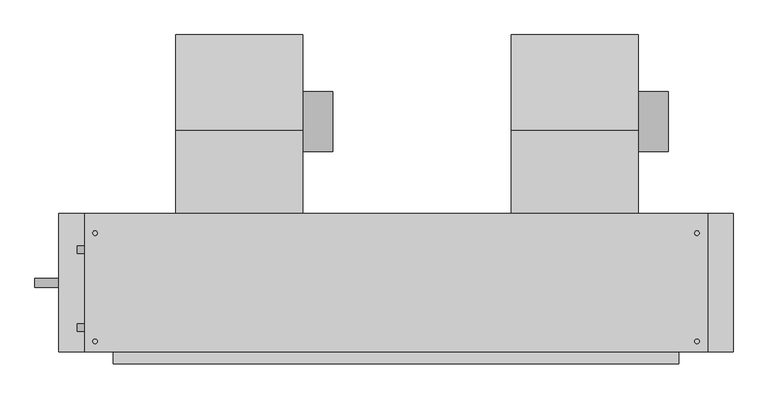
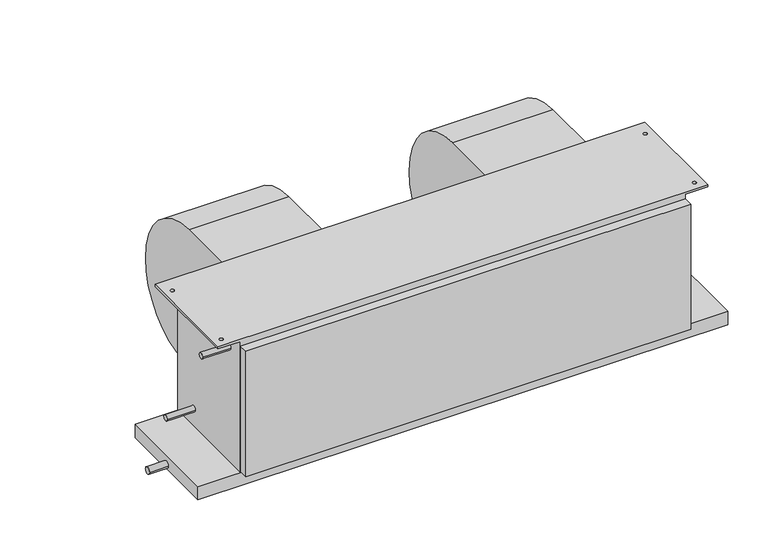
"""IFC4 building model written with IfcOpenShell, lengths in millimetres: proxy geometry, Concealed_High_Capacity_Horizontal_Fan_Coil_Unit_-_42DAA_-_CARRIER_-_2-Pipe_Cool-EHeat_LH_2022 : Size 20 - 277v/60Hz/1Ph - 6 Row 14.0kW."""

from ifc_helpers import new_model, si_unit, point, frame, frame_2d, origin, place, context, project, spatial, polyline, circle_curve, trimmed, segment, composite_curve, outline, extrude, source, transform, mapped, element, save
from ifc_brep_helpers import plane_surface, cylinder_surface, revolved_surface, advanced_brep


def mechanical_equipment_786d0d70(model_context):
    return source(origin(), model_context, "Body", "SolidModel", [
        extrude(outline(composite_curve([segment(trimmed(circle_curve(frame_2d((102.0007598, -206.8897468)), 63.5), [point((165.5007598, -206.8897468))], [point((38.5007598, -206.8897468))], False, "CARTESIAN"), True, "CONTINUOUS"), segment(trimmed(circle_curve(frame_2d((102.0007598, -206.8897468)), 63.5), [point((38.5007598, -206.8897468))], [point((165.5007598, -206.8897468))], False, "CARTESIAN"), True, "CONTINUOUS")], self_intersect=False)), frame((-44.45, 0.0, 0.0), z_axis=(1.0, 0.0, 0.0), x_axis=(0.0, 1.0, 0.0)), (0.0, 0.0, 1.0), 63.5),
        advanced_brep(
        [(-312.674, 285.5155957, -222.029602), (-312.674, 104.6226, -403.64664), (-312.674, -50.9016, -277.10638), (-312.674, -92.075, -277.10638), (-312.674, -92.075, -19.05), (-312.674, 83.0080093, -19.05), (-44.45, 285.5155957, -222.029602), (-44.45, 83.0080093, -19.05), (-44.45, -92.075, -19.05), (-44.45, -92.075, -277.10638), (-44.45, -50.9016, -277.10638), (-44.45, 104.622599, -403.6457839)],
        [
            (0, 1, circle_curve(frame((-312.674, 104.44226, -222.57258), z_axis=(-1.0, 0.0, 0.0), x_axis=(0.0, -1.0, 0.0)), 181.0741498)),
            (1, 2, circle_curve(frame((-312.674, 104.44226, -245.02364), z_axis=(-1.0, 0.0, 0.0), x_axis=(0.0, -1.0, 0.0)), 158.6222464)),
            (2, 3),
            (3, 4),
            (4, 5),
            (5, 0, circle_curve(frame((-312.674, 81.9912, -222.57258), z_axis=(-1.0, 0.0, 0.0), x_axis=(0.0, -1.0, 0.0)), 203.52512)),
            (6, 7, circle_curve(frame((-44.45, 81.9912, -222.57258), z_axis=(1.0, 0.0, 0.0), x_axis=(0.0, -1.0, 0.0)), 203.52512)),
            (7, 8),
            (8, 9),
            (9, 10),
            (10, 11, circle_curve(frame((-44.45, 104.44226, -245.02364), z_axis=(1.0, 0.0, 0.0), x_axis=(0.0, -1.0, 0.0)), 158.6222464)),
            (11, 6, circle_curve(frame((-44.45, 104.44226, -222.57258), z_axis=(1.0, 0.0, 0.0), x_axis=(0.0, -1.0, 0.0)), 181.0741498)),
            (0, 6),
            (11, 1),
            (10, 2),
            (9, 3),
            (8, 4),
            (7, 5),
        ],
        [
            plane_surface(frame((-312.674, -76.6318898, -222.57258), z_axis=(-1.0, 0.0, 0.0), x_axis=(0.0, 0.0, 1.0))),
            plane_surface(frame((-44.45, -76.6318898, -222.57258), z_axis=(1.0, 0.0, 0.0), x_axis=(0.0, 0.0, -1.0))),
            cylinder_surface(frame((-44.45, 104.44226, -222.57258), z_axis=(-1.0, 0.0, 0.0), x_axis=(0.0, -1.0, 0.0)), 181.0741498),
            cylinder_surface(frame((-44.45, 104.44226, -245.02364), z_axis=(-1.0, 0.0, 0.0), x_axis=(0.0, -1.0, 0.0)), 158.6222464),
            plane_surface(frame((-312.674, -50.9016, -277.10638), z_axis=(0.0, 0.0, -1.0), x_axis=(1.0, 0.0, 0.0))),
            plane_surface(frame((-312.674, -92.075, -277.10638), z_axis=(0.0, -1.0, 0.0), x_axis=(1.0, 0.0, 0.0))),
            plane_surface(frame((-312.674, -92.075, -19.05), z_axis=(0.0, 0.0, 1.0), x_axis=(1.0, 0.0, 0.0))),
            cylinder_surface(frame((-44.45, 81.9912, -222.57258), z_axis=(-1.0, 0.0, 0.0), x_axis=(0.0, -1.0, 0.0)), 203.52512),
        ],
        [
            (0, [[1, 2, 3, 4, 5, 6]]),
            (1, [[7, 8, 9, 10, 11, 12]]),
            (2, [[-1, 13, -12, 14]]),
            (3, [[-2, -14, -11, 15]]),
            (4, [[-3, -15, -10, 16]]),
            (5, [[-4, -16, -9, 17]]),
            (6, [[-5, -17, -8, 18]]),
            (7, [[-6, -18, -7, -13]]),
        ],
    ),
        extrude(outline(composite_curve([segment(trimmed(circle_curve(frame_2d((102.0007598, -206.8897468)), 63.5), [point((165.5007598, -206.8897468))], [point((38.5007598, -206.8897468))], False, "CARTESIAN"), True, "CONTINUOUS"), segment(trimmed(circle_curve(frame_2d((102.0007598, -206.8897468)), 63.5), [point((38.5007598, -206.8897468))], [point((165.5007598, -206.8897468))], False, "CARTESIAN"), True, "CONTINUOUS")], self_intersect=False)), frame((663.575, 0.0, 0.0), z_axis=(1.0, 0.0, 0.0), x_axis=(0.0, 1.0, 0.0)), (0.0, 0.0, 1.0), 63.5),
        advanced_brep(
        [(395.351, 285.5155957, -222.029602), (395.351, 104.6226, -403.64664), (395.351, -50.9016, -277.10638), (395.351, -92.075, -277.10638), (395.351, -92.075, -19.05), (395.351, 83.0080093, -19.05), (663.575, 285.5155957, -222.029602), (663.575, 83.0080093, -19.05), (663.575, -92.075, -19.05), (663.575, -92.075, -277.10638), (663.575, -50.9016, -277.10638), (663.575, 104.622599, -403.6457839)],
        [
            (0, 1, circle_curve(frame((395.351, 104.44226, -222.57258), z_axis=(-1.0, 0.0, 0.0), x_axis=(0.0, -1.0, 0.0)), 181.0741498)),
            (1, 2, circle_curve(frame((395.351, 104.44226, -245.02364), z_axis=(-1.0, 0.0, 0.0), x_axis=(0.0, -1.0, 0.0)), 158.6222464)),
            (2, 3),
            (3, 4),
            (4, 5),
            (5, 0, circle_curve(frame((395.351, 81.9912, -222.57258), z_axis=(-1.0, 0.0, 0.0), x_axis=(0.0, -1.0, 0.0)), 203.52512)),
            (6, 7, circle_curve(frame((663.575, 81.9912, -222.57258), z_axis=(1.0, 0.0, 0.0), x_axis=(0.0, -1.0, 0.0)), 203.52512)),
            (7, 8),
            (8, 9),
            (9, 10),
            (10, 11, circle_curve(frame((663.575, 104.44226, -245.02364), z_axis=(1.0, 0.0, 0.0), x_axis=(0.0, -1.0, 0.0)), 158.6222464)),
            (11, 6, circle_curve(frame((663.575, 104.44226, -222.57258), z_axis=(1.0, 0.0, 0.0), x_axis=(0.0, -1.0, 0.0)), 181.0741498)),
            (0, 6),
            (11, 1),
            (10, 2),
            (9, 3),
            (8, 4),
            (7, 5),
        ],
        [
            plane_surface(frame((395.351, -76.6318898, -222.57258), z_axis=(-1.0, 0.0, 0.0), x_axis=(0.0, 0.0, 1.0))),
            plane_surface(frame((663.575, -76.6318898, -222.57258), z_axis=(1.0, 0.0, 0.0), x_axis=(0.0, 0.0, -1.0))),
            cylinder_surface(frame((663.575, 104.44226, -222.57258), z_axis=(-1.0, 0.0, 0.0), x_axis=(0.0, -1.0, 0.0)), 181.0741498),
            cylinder_surface(frame((663.575, 104.44226, -245.02364), z_axis=(-1.0, 0.0, 0.0), x_axis=(0.0, -1.0, 0.0)), 158.6222464),
            plane_surface(frame((395.351, -50.9016, -277.10638), z_axis=(0.0, 0.0, -1.0), x_axis=(1.0, 0.0, 0.0))),
            plane_surface(frame((395.351, -92.075, -277.10638), z_axis=(0.0, -1.0, 0.0), x_axis=(1.0, 0.0, 0.0))),
            plane_surface(frame((395.351, -92.075, -19.05), z_axis=(0.0, 0.0, 1.0), x_axis=(1.0, 0.0, 0.0))),
            cylinder_surface(frame((663.575, 81.9912, -222.57258), z_axis=(-1.0, 0.0, 0.0), x_axis=(0.0, -1.0, 0.0)), 203.52512),
        ],
        [
            (0, [[1, 2, 3, 4, 5, 6]]),
            (1, [[7, 8, 9, 10, 11, 12]]),
            (2, [[-1, 13, -12, 14]]),
            (3, [[-2, -14, -11, 15]]),
            (4, [[-3, -15, -10, 16]]),
            (5, [[-4, -16, -9, 17]]),
            (6, [[-5, -17, -8, 18]]),
            (7, [[-6, -18, -7, -13]]),
        ],
    ),
        advanced_brep(
        [(809.625, -92.075, -6.35), (809.625, -384.175, -6.35), (749.3, -384.175, -6.35), (749.3, -92.075, -6.35), (782.6375, -133.35, -6.35), (792.1625, -133.35, -6.35), (782.6375, -361.95, -6.35), (792.1625, -361.95, -6.35), (-504.825, -92.075, -6.35), (-444.5, -92.075, -6.35), (-444.5, -384.175, -6.35), (-504.825, -384.175, -6.35), (-487.3625, -133.35, -6.35), (-477.8375, -133.35, -6.35), (-487.3625, -361.95, -6.35), (-477.8375, -361.95, -6.35), (809.625, -384.175, 0.0), (809.625, -92.075, 0.0), (-504.825, -92.075, 0.0), (-504.825, -384.175, 0.0), (-477.8375, -133.35, 0.0), (-487.3625, -133.35, 0.0), (-477.8375, -361.95, 0.0), (-487.3625, -361.95, 0.0), (792.1625, -133.35, 0.0), (782.6375, -133.35, 0.0), (792.1625, -361.95, 0.0), (782.6375, -361.95, 0.0), (749.3, -92.075, -377.825), (-444.5, -92.075, -377.825), (-444.5, -384.175, -377.825), (749.3, -384.175, -377.825)],
        [
            (0, 1),
            (1, 2),
            (2, 3),
            (3, 0),
            (4, 5, circle_curve(frame((787.4, -133.35, -6.35), z_axis=(0.0, 0.0, 1.0), x_axis=(1.0, 0.0, 0.0)), 4.7625)),
            (5, 4, circle_curve(frame((787.4, -133.35, -6.35), z_axis=(0.0, 0.0, 1.0), x_axis=(1.0, 0.0, 0.0)), 4.7625)),
            (6, 7, circle_curve(frame((787.4, -361.95, -6.35), z_axis=(0.0, 0.0, 1.0), x_axis=(1.0, 0.0, 0.0)), 4.7625)),
            (7, 6, circle_curve(frame((787.4, -361.95, -6.35), z_axis=(0.0, 0.0, 1.0), x_axis=(1.0, 0.0, 0.0)), 4.7625)),
            (8, 9),
            (9, 10),
            (10, 11),
            (11, 8),
            (12, 13, circle_curve(frame((-482.6, -133.35, -6.35), z_axis=(0.0, 0.0, 1.0), x_axis=(1.0, 0.0, 0.0)), 4.7625)),
            (13, 12, circle_curve(frame((-482.6, -133.35, -6.35), z_axis=(0.0, 0.0, 1.0), x_axis=(1.0, 0.0, 0.0)), 4.7625)),
            (14, 15, circle_curve(frame((-482.6, -361.95, -6.35), z_axis=(0.0, 0.0, 1.0), x_axis=(1.0, 0.0, 0.0)), 4.7625)),
            (15, 14, circle_curve(frame((-482.6, -361.95, -6.35), z_axis=(0.0, 0.0, 1.0), x_axis=(1.0, 0.0, 0.0)), 4.7625)),
            (16, 17),
            (17, 18),
            (18, 19),
            (19, 16),
            (20, 21, circle_curve(frame((-482.6, -133.35, 0.0), z_axis=(0.0, 0.0, -1.0), x_axis=(1.0, 0.0, 0.0)), 4.7625)),
            (21, 20, circle_curve(frame((-482.6, -133.35, 0.0), z_axis=(0.0, 0.0, -1.0), x_axis=(1.0, 0.0, 0.0)), 4.7625)),
            (22, 23, circle_curve(frame((-482.6, -361.95, 0.0), z_axis=(0.0, 0.0, -1.0), x_axis=(1.0, 0.0, 0.0)), 4.7625)),
            (23, 22, circle_curve(frame((-482.6, -361.95, 0.0), z_axis=(0.0, 0.0, -1.0), x_axis=(1.0, 0.0, 0.0)), 4.7625)),
            (24, 25, circle_curve(frame((787.4, -133.35, 0.0), z_axis=(0.0, 0.0, -1.0), x_axis=(1.0, 0.0, 0.0)), 4.7625)),
            (25, 24, circle_curve(frame((787.4, -133.35, 0.0), z_axis=(0.0, 0.0, -1.0), x_axis=(1.0, 0.0, 0.0)), 4.7625)),
            (26, 27, circle_curve(frame((787.4, -361.95, 0.0), z_axis=(0.0, 0.0, -1.0), x_axis=(1.0, 0.0, 0.0)), 4.7625)),
            (27, 26, circle_curve(frame((787.4, -361.95, 0.0), z_axis=(0.0, 0.0, -1.0), x_axis=(1.0, 0.0, 0.0)), 4.7625)),
            (3, 28),
            (28, 29),
            (29, 9),
            (8, 18),
            (17, 0),
            (1, 16),
            (19, 11),
            (10, 30),
            (30, 31),
            (31, 2),
            (28, 31),
            (30, 29),
            (20, 13),
            (12, 21),
            (22, 15),
            (14, 23),
            (24, 5),
            (4, 25),
            (26, 7),
            (6, 27),
        ],
        [
            plane_surface(frame((749.3, -92.075, -6.35), z_axis=(0.0, 0.0, -1.0), x_axis=(1.0, 0.0, 0.0))),
            plane_surface(frame((749.3, -92.075, 0.0), z_axis=(0.0, 0.0, 1.0), x_axis=(-1.0, 0.0, 0.0))),
            plane_surface(frame((809.625, -92.075, 0.0), z_axis=(0.0, 1.0, 0.0), x_axis=(0.0, 0.0, -1.0))),
            plane_surface(frame((749.3, -384.175, 0.0), z_axis=(0.0, -1.0, 0.0), x_axis=(0.0, 0.0, -1.0))),
            plane_surface(frame((809.625, -384.175, 0.0), z_axis=(1.0, 0.0, 0.0), x_axis=(0.0, 0.0, -1.0))),
            plane_surface(frame((-504.825, -92.075, 0.0), z_axis=(-1.0, 0.0, 0.0), x_axis=(0.0, 0.0, -1.0))),
            plane_surface(frame((-444.5, -92.075, -377.825), z_axis=(0.0, 0.0, -1.0), x_axis=(1.0, 0.0, 0.0))),
            plane_surface(frame((-444.5, -92.075, 0.0), z_axis=(-1.0, 0.0, 0.0), x_axis=(0.0, 0.0, -1.0))),
            plane_surface(frame((749.3, -384.175, 0.0), z_axis=(1.0, 0.0, 0.0), x_axis=(0.0, 0.0, -1.0))),
            revolved_surface(polyline([(-477.83750000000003, -133.35, 0.0), (-477.83750000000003, -133.35, -6.35)]), (-482.6, -133.35, -6.35), (0.0, 0.0, 1.0)),
            revolved_surface(polyline([(-477.83750000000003, -361.95, 0.0), (-477.83750000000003, -361.95, -6.35)]), (-482.6, -361.95, 0.0), (0.0, 0.0, 1.0)),
            revolved_surface(polyline([(792.1625, -133.35, 0.0), (792.1625, -133.35, -6.35)]), (787.4, -133.35, 0.0), (0.0, 0.0, 1.0)),
            revolved_surface(polyline([(792.1625, -361.95, 0.0), (792.1625, -361.95, -6.35)]), (787.4, -361.95, 0.0), (0.0, 0.0, 1.0)),
        ],
        [
            (0, [[1, 2, 3, 4], [5, 6], [7, 8]]),
            (0, [[9, 10, 11, 12], [13, 14], [15, 16]]),
            (1, [[17, 18, 19, 20], [21, 22], [23, 24], [25, 26], [27, 28]]),
            (2, [[-4, 29, 30, 31, -9, 32, -18, 33]]),
            (3, [[-2, 34, -20, 35, -11, 36, 37, 38]]),
            (4, [[-1, -33, -17, -34]]),
            (5, [[-12, -35, -19, -32]]),
            (6, [[39, -37, 40, -30]]),
            (7, [[-40, -36, -10, -31]]),
            (8, [[-39, -29, -3, -38]]),
            (9, [[41, -13, 42, -21]]),
            (9, [[-41, -22, -42, -14]]),
            (10, [[43, -15, 44, -23]]),
            (10, [[-43, -24, -44, -16]]),
            (11, [[45, -5, 46, -25]]),
            (11, [[-45, -26, -46, -6]]),
            (12, [[47, -7, 48, -27]]),
            (12, [[-47, -28, -48, -8]]),
        ],
    ),
        extrude(outline(composite_curve([segment(trimmed(circle_curve(frame_2d((-238.125, -403.225)), 9.525), [point((-247.65, -403.225))], [point((-228.6, -403.225))], False, "CARTESIAN"), True, "CONTINUOUS"), segment(trimmed(circle_curve(frame_2d((-238.125, -403.225)), 9.525), [point((-228.6, -403.225))], [point((-247.65, -403.225))], False, "CARTESIAN"), True, "CONTINUOUS")], self_intersect=False)), frame((-609.6, 0.0, 0.0), z_axis=(1.0, 0.0, 0.0), x_axis=(0.0, 1.0, 0.0)), (0.0, 0.0, 1.0), 50.8),
        extrude(outline(composite_curve([segment(trimmed(circle_curve(frame_2d((-333.375, -50.8)), 7.9375), [point((-341.3125, -50.8))], [point((-325.4375, -50.8))], False, "CARTESIAN"), True, "CONTINUOUS"), segment(trimmed(circle_curve(frame_2d((-333.375, -50.8)), 7.9375), [point((-325.4375, -50.8))], [point((-341.3125, -50.8))], False, "CARTESIAN"), True, "CONTINUOUS")], self_intersect=False)), frame((-520.7, 0.0, 0.0), z_axis=(1.0, 0.0, 0.0), x_axis=(0.0, 1.0, 0.0)), (0.0, 0.0, 1.0), 76.2),
        extrude(outline(composite_curve([segment(trimmed(circle_curve(frame_2d((-168.275, -327.025)), 7.9375), [point((-176.2125, -327.025))], [point((-160.3375, -327.025))], False, "CARTESIAN"), True, "CONTINUOUS"), segment(trimmed(circle_curve(frame_2d((-168.275, -327.025)), 7.9375), [point((-160.3375, -327.025))], [point((-176.2125, -327.025))], False, "CARTESIAN"), True, "CONTINUOUS")], self_intersect=False)), frame((-520.7, 0.0, 0.0), z_axis=(1.0, 0.0, 0.0), x_axis=(0.0, 1.0, 0.0)), (0.0, 0.0, 1.0), 76.2),
        extrude(outline(polyline([(749.3, -409.575), (-444.5, -409.575), (-444.5, -384.175), (749.3, -384.175), (749.3, -409.575)])), frame((0.0, 0.0, -374.65), z_axis=(0.0, 0.0, 1.0), x_axis=(1.0, 0.0, 0.0)), (0.0, 0.0, 1.0), 355.6),
        extrude(outline(polyline([(863.6, -92.075), (863.6, -384.175), (-558.8, -384.175), (-558.8, -92.075), (863.6, -92.075)])), frame((0.0, 0.0, -415.925), z_axis=(0.0, 0.0, 1.0), x_axis=(1.0, 0.0, 0.0)), (0.0, 0.0, 1.0), 38.1),
    ])


if __name__ == "__main__":
    model = new_model("IFC4")
    model_context = context("Model", 3, world=origin())
    ifc_project = project(units=[si_unit("LENGTHUNIT", "METRE", prefix="MILLI")], contexts=[model_context])
    site = spatial("IfcSite", under=ifc_project)
    building = spatial("IfcBuilding", under=site)
    placement = place(None, origin())
    mechanical_equipment_shape = mechanical_equipment_786d0d70(model_context)
    element("IfcBuildingElementProxy", 1, Name="Concealed_High_Capacity_Horizontal_Fan_Coil_Unit_-_42DAA_-_CARRIER_-_2-Pipe_Cool-EHeat_LH_2022 : Size 20 - 277v/60Hz/1Ph - 6 Row 14.0kW", ObjectType="Concealed_High_Capacity_Horizontal_Fan_Coil_Unit_-_42DAA_-_CARRIER_-_2-Pipe_Cool-EHeat_LH_2022 : Size 20 - 277v/60Hz/1Ph - 6 Row 14.0kW", at=placement, inside=building, context=model_context, shape_type="MappedRepresentation", body=[
        mapped(mechanical_equipment_shape, transform((0.0, 0.0, 0.0), x_axis=(1.0, 0.0, 0.0), y_axis=(0.0, 1.0, 0.0), z_axis=(0.0, 0.0, 1.0))),
    ])
    save(model, "model.ifc")
